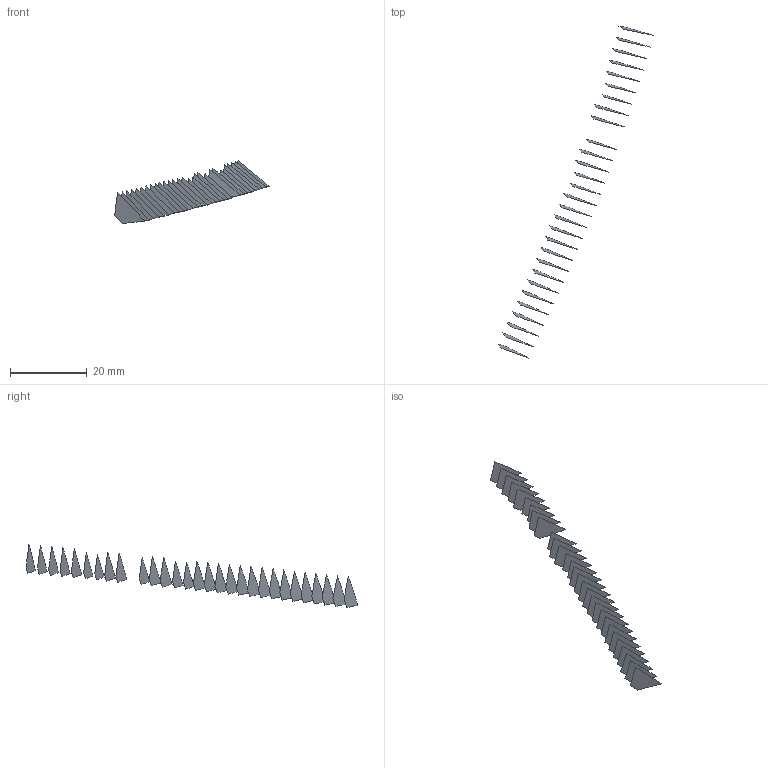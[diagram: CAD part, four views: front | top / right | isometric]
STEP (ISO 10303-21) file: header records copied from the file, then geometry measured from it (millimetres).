
FILE_DESCRIPTION(('FreeCAD Model'),'2;1');
FILE_NAME('Open CASCADE Shape Model','2022-05-22T07:50:25',('FreeCAD'),( 'FreeCAD'),'Open CASCADE STEP processor 7.5','FreeCAD','Unknown');
FILE_SCHEMA(('AUTOMOTIVE_DESIGN { 1 0 10303 214 1 1 1 1 }'));
Length unit declared in the file: millimetre
Products named in the file (30): Open CASCADE STEP translator 7.5 28; Open CASCADE STEP translator 7.5 28.1; Open CASCADE STEP translator 7.5 28.2; Open CASCADE STEP translator 7.5 28.3; Open CASCADE STEP translator 7.5 28.4; Open CASCADE STEP translator 7.5 28.5; Open CASCADE STEP translator 7.5 28.6; Open CASCADE STEP translator 7.5 28.7; Open CASCADE STEP translator 7.5 28.8; Open CASCADE STEP translator 7.5 28.9; Open CASCADE STEP translator 7.5 28.10; Open CASCADE STEP translator 7.5 28.11; Open CASCADE STEP translator 7.5 28.12; Open CASCADE STEP translator 7.5 28.13; Open CASCADE STEP translator 7.5 28.14; Open CASCADE STEP translator 7.5 28.15; Open CASCADE STEP translator 7.5 28.16; Open CASCADE STEP translator 7.5 28.17; Open CASCADE STEP translator 7.5 28.18; Open CASCADE STEP translator 7.5 28.19; Open CASCADE STEP translator 7.5 28.20; Open CASCADE STEP translator 7.5 28.21; Open CASCADE STEP translator 7.5 28.22; Open CASCADE STEP translator 7.5 28.23; Open CASCADE STEP translator 7.5 28.24; Open CASCADE STEP translator 7.5 28.25; Open CASCADE STEP translator 7.5 28.26; Open CASCADE STEP translator 7.5 28.27; Open CASCADE STEP translator 7.5 28.28; Open CASCADE STEP translator 7.5 28.29
Assembly tree (29 placements, depth 2):
  Open CASCADE STEP translator 7.5 28
    Open CASCADE STEP translator 7.5 28.1
    Open CASCADE STEP translator 7.5 28.2
    Open CASCADE STEP translator 7.5 28.3
    Open CASCADE STEP translator 7.5 28.4
    Open CASCADE STEP translator 7.5 28.5
    Open CASCADE STEP translator 7.5 28.6
    Open CASCADE STEP translator 7.5 28.7
    Open CASCADE STEP translator 7.5 28.8
    Open CASCADE STEP translator 7.5 28.9
    Open CASCADE STEP translator 7.5 28.10
    Open CASCADE STEP translator 7.5 28.11
    Open CASCADE STEP translator 7.5 28.12
    Open CASCADE STEP translator 7.5 28.13
    Open CASCADE STEP translator 7.5 28.14
    Open CASCADE STEP translator 7.5 28.15
    Open CASCADE STEP translator 7.5 28.16
    Open CASCADE STEP translator 7.5 28.17
    Open CASCADE STEP translator 7.5 28.18
    Open CASCADE STEP translator 7.5 28.19
    Open CASCADE STEP translator 7.5 28.20
    Open CASCADE STEP translator 7.5 28.21
    Open CASCADE STEP translator 7.5 28.22
    Open CASCADE STEP translator 7.5 28.23
    Open CASCADE STEP translator 7.5 28.24
    Open CASCADE STEP translator 7.5 28.25
    Open CASCADE STEP translator 7.5 28.26
    Open CASCADE STEP translator 7.5 28.27
    Open CASCADE STEP translator 7.5 28.28
    Open CASCADE STEP translator 7.5 28.29
Bounding box: 40.34 x 86.53 x 16.41 mm (x, y, z)
Surface area: 975.4 mm2 (no closed solid volume)
Topology: 0 solids, 29 shells, 29 faces, 326 edges, 326 vertices
Faces by surface type: bspline 29
Entity records: 5066 total; most frequent: CARTESIAN_POINT 1776, B_SPLINE_CURVE_WITH_KNOTS 652, ORIENTED_EDGE 326, EDGE_CURVE 326, VERTEX_POINT 326, SURFACE_CURVE 326, PCURVE 326, DEFINITIONAL_REPRESENTATION 326
